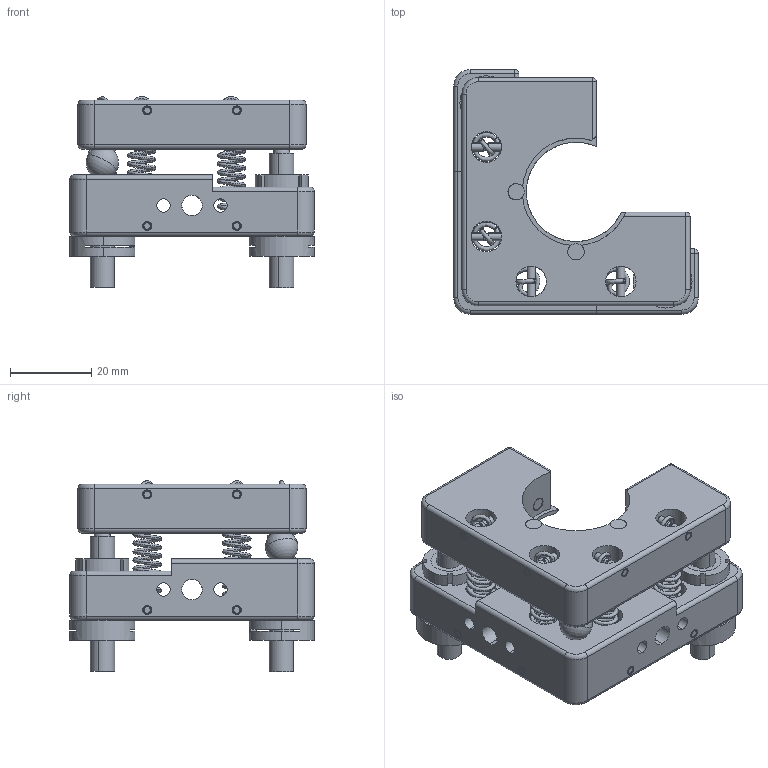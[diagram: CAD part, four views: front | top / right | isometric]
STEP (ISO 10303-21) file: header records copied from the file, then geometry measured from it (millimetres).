
FILE_DESCRIPTION (( 'STEP AP203' ), '1' );
FILE_NAME ('7MM16254謗峎覃淕噩殤.STEP', '2019-10-22T06:10:18', ( '' ), ( '' ), 'SwSTEP 2.0', 'SolidWorks 2014', '' );
FILE_SCHEMA (( 'CONFIG_CONTROL_DESIGN' ));
Length unit declared in the file: millimetre
Products named in the file (1): 7MM16254謗峎覃淕噩殤
Bounding box: 60 x 60 x 46.92 mm (x, y, z)
Surface area: 24009.5 mm2 (no closed solid volume)
Topology: 0 solids, 38 shells, 387 faces, 1071 edges, 666 vertices
Faces by surface type: cylinder 174, plane 95, torus 44, bspline 38, cone 20, sphere 16
Entity records: 24260 total; most frequent: CARTESIAN_POINT 14574, DIRECTION 2124, ORIENTED_EDGE 1834, EDGE_CURVE 1023, AXIS2_PLACEMENT_3D 860, VERTEX_POINT 657, CIRCLE 510, EDGE_LOOP 459
